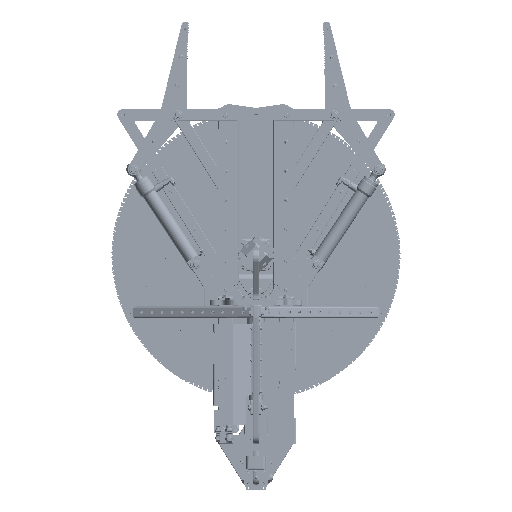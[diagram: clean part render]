
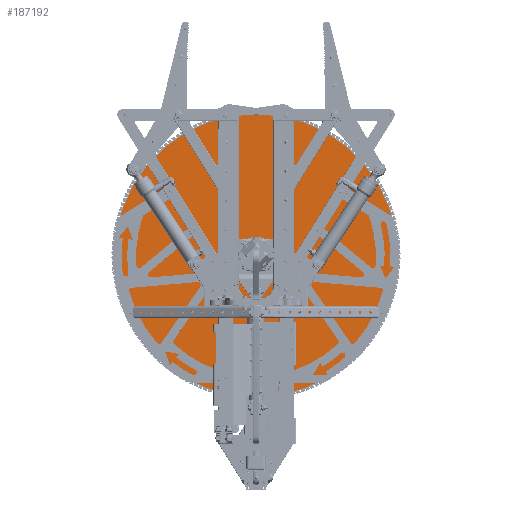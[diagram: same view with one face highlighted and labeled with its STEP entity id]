
A CAD part, top view. The second image highlights one B-rep face of the part: STEP entity #187192.
In plain terms, the highlighted planar face has unit normal (0, 0, 1).
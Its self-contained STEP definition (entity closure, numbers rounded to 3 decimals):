
#5302=FACE_BOUND('',#64543,.T.);
#5303=FACE_BOUND('',#64544,.T.);
#5304=FACE_BOUND('',#64545,.T.);
#9366=PLANE('',#205405);
#52789=FACE_OUTER_BOUND('',#64542,.T.);
#64542=EDGE_LOOP('',(#159516));
#64543=EDGE_LOOP('',(#159517,#159518,#159519,#159520));
#64544=EDGE_LOOP('',(#159521));
#64545=EDGE_LOOP('',(#159522));
#76282=CIRCLE('',#205397,7.65);
#76284=CIRCLE('',#205400,7.65);
#76288=CIRCLE('',#205406,489.);
#76289=CIRCLE('',#205407,11.25);
#76290=CIRCLE('',#205408,64.);
#76291=CIRCLE('',#205409,11.25);
#76292=CIRCLE('',#205410,64.);
#90687=VERTEX_POINT('',#312642);
#90689=VERTEX_POINT('',#312648);
#90693=VERTEX_POINT('',#312660);
#90694=VERTEX_POINT('',#312662);
#90695=VERTEX_POINT('',#312663);
#90696=VERTEX_POINT('',#312665);
#90697=VERTEX_POINT('',#312667);
#114873=EDGE_CURVE('',#90687,#90687,#76282,.T.);
#114876=EDGE_CURVE('',#90689,#90689,#76284,.T.);
#114882=EDGE_CURVE('',#90693,#90693,#76288,.T.);
#114883=EDGE_CURVE('',#90694,#90695,#76289,.T.);
#114884=EDGE_CURVE('',#90695,#90696,#76290,.T.);
#114885=EDGE_CURVE('',#90696,#90697,#76291,.T.);
#114886=EDGE_CURVE('',#90697,#90694,#76292,.T.);
#159516=ORIENTED_EDGE('',*,*,#114882,.F.);
#159517=ORIENTED_EDGE('',*,*,#114883,.T.);
#159518=ORIENTED_EDGE('',*,*,#114884,.T.);
#159519=ORIENTED_EDGE('',*,*,#114885,.T.);
#159520=ORIENTED_EDGE('',*,*,#114886,.T.);
#159521=ORIENTED_EDGE('',*,*,#114876,.F.);
#159522=ORIENTED_EDGE('',*,*,#114873,.F.);
#187192=ADVANCED_FACE('',(#52789,#5302,#5303,#5304),#9366,.T.);
#205397=AXIS2_PLACEMENT_3D('',#312643,#249293,#249294);
#205400=AXIS2_PLACEMENT_3D('',#312649,#249300,#249301);
#205405=AXIS2_PLACEMENT_3D('',#312659,#249312,#249313);
#205406=AXIS2_PLACEMENT_3D('',#312661,#249314,#249315);
#205407=AXIS2_PLACEMENT_3D('',#312664,#249316,#249317);
#205408=AXIS2_PLACEMENT_3D('',#312666,#249318,#249319);
#205409=AXIS2_PLACEMENT_3D('',#312668,#249320,#249321);
#205410=AXIS2_PLACEMENT_3D('',#312669,#249322,#249323);
#249293=DIRECTION('center_axis',(0.,0.,
1.));
#249294=DIRECTION('ref_axis',(0.,-1.,0.));
#249300=DIRECTION('center_axis',(0.,0.,
1.));
#249301=DIRECTION('ref_axis',(0.,-1.,0.));
#249312=DIRECTION('center_axis',(0.,0.,
1.));
#249313=DIRECTION('ref_axis',(0.,1.,0.));
#249314=DIRECTION('center_axis',(0.,0.,
-1.));
#249315=DIRECTION('ref_axis',(0.,-1.,0.));
#249316=DIRECTION('center_axis',(0.,0.,
1.));
#249317=DIRECTION('ref_axis',(-1.,0.,0.));
#249318=DIRECTION('center_axis',(0.,0.,
-1.));
#249319=DIRECTION('ref_axis',(-1.,0.,0.));
#249320=DIRECTION('center_axis',(0.,0.,
1.));
#249321=DIRECTION('ref_axis',(1.,0.,0.));
#249322=DIRECTION('center_axis',(0.,0.,
-1.));
#249323=DIRECTION('ref_axis',(-1.,0.,0.));
#312642=CARTESIAN_POINT('',(-55.,80.15,-44.1));
#312643=CARTESIAN_POINT('Origin',(-55.,72.5,-44.1));
#312648=CARTESIAN_POINT('',(55.,80.15,-44.1));
#312649=CARTESIAN_POINT('Origin',(55.,72.5,-44.1));
#312659=CARTESIAN_POINT('Origin',(0.,72.5,
-44.1));
#312660=CARTESIAN_POINT('',(0.,561.5,-44.1));
#312661=CARTESIAN_POINT('Origin',(0.,72.5,
-44.1));
#312662=CARTESIAN_POINT('',(63.586,79.77,-44.1));
#312663=CARTESIAN_POINT('',(63.586,65.23,-44.1));
#312664=CARTESIAN_POINT('Origin',(55.,72.5,-44.1));
#312665=CARTESIAN_POINT('',(-63.586,65.23,-44.1));
#312666=CARTESIAN_POINT('Origin',(0.,72.5,
-44.1));
#312667=CARTESIAN_POINT('',(-63.586,79.77,-44.1));
#312668=CARTESIAN_POINT('Origin',(-55.,72.5,-44.1));
#312669=CARTESIAN_POINT('Origin',(0.,72.5,
-44.1));
